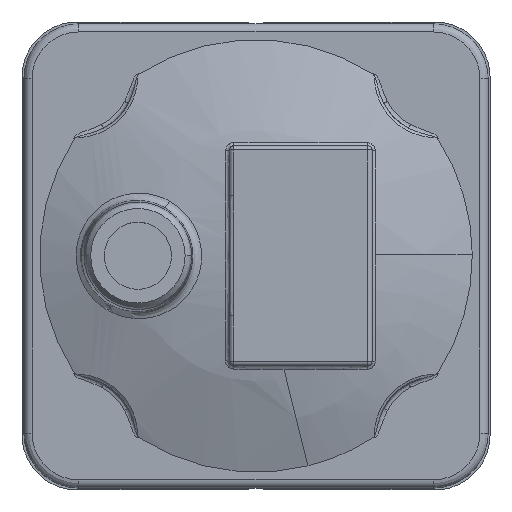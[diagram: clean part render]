
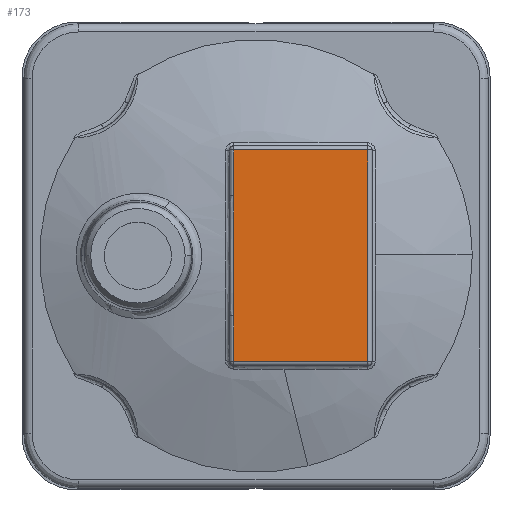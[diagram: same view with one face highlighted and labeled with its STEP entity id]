
A CAD part, top view. The second image highlights one B-rep face of the part: STEP entity #173.
In plain terms, the highlighted planar face has unit normal (0, 0, 1).
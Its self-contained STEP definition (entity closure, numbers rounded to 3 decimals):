
#173=ADVANCED_FACE('',(#1013),#1012,.T.);
#1012=PLANE('',#4743);
#1013=FACE_OUTER_BOUND('',#4744,.T.);
#4740=CARTESIAN_POINT('',(-8.981,-31.2,22.6));
#4741=DIRECTION('',(0.,0.,1.));
#4742=DIRECTION('',(1.,0.,0.));
#4743=AXIS2_PLACEMENT_3D('',#4740,#4741,#4742);
#4744=EDGE_LOOP('',(#16189,#16190,#16191,#16192,#16193,#16194));
#16189=ORIENTED_EDGE('',*,*,#17397,.T.);
#16190=ORIENTED_EDGE('',*,*,#17403,.T.);
#16191=ORIENTED_EDGE('',*,*,#17390,.T.);
#16192=ORIENTED_EDGE('',*,*,#17389,.T.);
#16193=ORIENTED_EDGE('',*,*,#17463,.T.);
#16194=ORIENTED_EDGE('',*,*,#17393,.T.);
#17389=EDGE_CURVE('',#18532,#18547,#18554,.T.);
#17390=EDGE_CURVE('',#18560,#18532,#18561,.T.);
#17393=EDGE_CURVE('',#18580,#18581,#18582,.T.);
#17397=EDGE_CURVE('',#18581,#18607,#18608,.T.);
#17403=EDGE_CURVE('',#18607,#18560,#18648,.T.);
#17463=EDGE_CURVE('',#18547,#18580,#19027,.T.);
#18532=VERTEX_POINT('',#23105);
#18547=VERTEX_POINT('',#23122);
#18554=(BOUNDED_CURVE() B_SPLINE_CURVE(3,(#23127,#23128,#23129,#23130,#23131,#23132,#23133,#23134,#23135,#23136),.UNSPECIFIED.,.F.,.F.) B_SPLINE_CURVE_WITH_KNOTS((4,2,2,2,4),(0.,0.007,0.015,0.022,0.029),.UNSPECIFIED.) CURVE() GEOMETRIC_REPRESENTATION_ITEM() RATIONAL_B_SPLINE_CURVE((1.,1.,1.,1.,1.,1.,1.,1.,1.,1.)) REPRESENTATION_ITEM('') );
#18560=VERTEX_POINT('',#23137);
#18561=LINE('',#23138,#23139);
#18580=VERTEX_POINT('',#23149);
#18581=VERTEX_POINT('',#23150);
#18582=LINE('',#23151,#23152);
#18607=VERTEX_POINT('',#23166);
#18608=LINE('',#23167,#23168);
#18648=LINE('',#23192,#23193);
#19027=LINE('',#23687,#23688);
#23105=CARTESIAN_POINT('',(-5.5,14.722,22.6));
#23122=CARTESIAN_POINT('',(-5.5,-14.722,22.6));
#23127=CARTESIAN_POINT('',(-5.5,14.722,22.6));
#23128=CARTESIAN_POINT('',(-5.5,12.268,22.6));
#23129=CARTESIAN_POINT('',(-5.549,9.814,22.6));
#23130=CARTESIAN_POINT('',(-5.632,4.907,22.6));
#23131=CARTESIAN_POINT('',(-5.665,2.453,22.6));
#23132=CARTESIAN_POINT('',(-5.665,-2.455,22.6));
#23133=CARTESIAN_POINT('',(-5.632,-4.908,22.6));
#23134=CARTESIAN_POINT('',(-5.549,-9.815,22.6));
#23135=CARTESIAN_POINT('',(-5.5,-12.269,22.6));
#23136=CARTESIAN_POINT('',(-5.5,-14.722,22.6));
#23137=CARTESIAN_POINT('',(-5.5,26.,22.6));
#23138=CARTESIAN_POINT('',(-5.5,26.,22.6));
#23139=VECTOR('',#23140,11.278);
#23140=DIRECTION('',(0.,-1.,0.));
#23149=CARTESIAN_POINT('',(-5.5,-26.,22.6));
#23150=CARTESIAN_POINT('',(27.5,-26.,22.6));
#23151=CARTESIAN_POINT('',(-5.5,-26.,22.6));
#23152=VECTOR('',#23153,33.);
#23153=DIRECTION('',(1.,0.,0.));
#23166=CARTESIAN_POINT('',(27.5,26.,22.6));
#23167=CARTESIAN_POINT('',(27.5,-26.,22.6));
#23168=VECTOR('',#23169,52.);
#23169=DIRECTION('',(0.,1.,0.));
#23192=CARTESIAN_POINT('',(27.5,26.,22.6));
#23193=VECTOR('',#23194,33.);
#23194=DIRECTION('',(-1.,0.,0.));
#23687=CARTESIAN_POINT('',(-5.5,-14.722,22.6));
#23688=VECTOR('',#23689,11.278);
#23689=DIRECTION('',(0.,-1.,0.));
